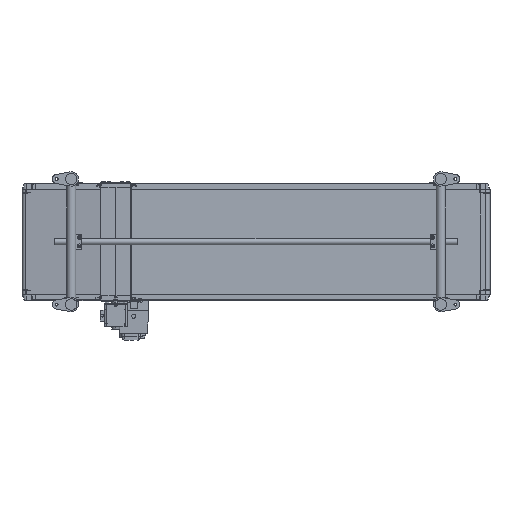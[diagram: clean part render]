
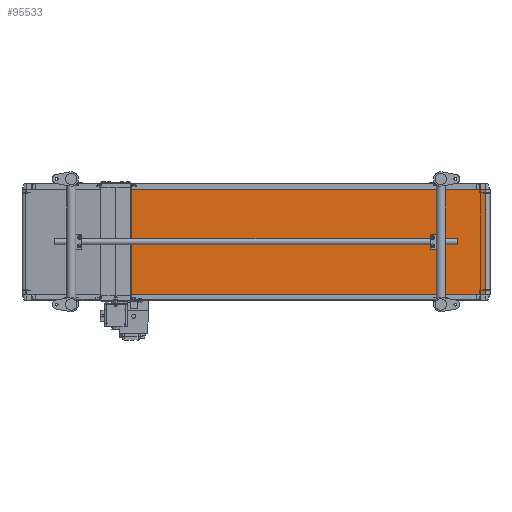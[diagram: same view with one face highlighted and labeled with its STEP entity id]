
A CAD part, front view. The second image highlights one B-rep face of the part: STEP entity #95533.
In plain terms, the highlighted planar face has unit normal (0.023, -1, 0).
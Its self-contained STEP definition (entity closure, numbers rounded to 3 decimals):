
#2728 = CARTESIAN_POINT ( 'NONE',  ( 1982.907, -34.195, -225. ) ) ;
#10260 = CARTESIAN_POINT ( 'NONE',  ( 434.607, -70.005, -225. ) ) ;
#13383 = DIRECTION ( 'NONE',  ( -1., -0.023, 0. ) ) ;
#16677 = VECTOR ( 'NONE', #13383, 1000. ) ;
#23935 = LINE ( 'NONE', #24611, #72868 ) ;
#24611 = CARTESIAN_POINT ( 'NONE',  ( 1982.907, -34.195, -225. ) ) ;
#27562 = VERTEX_POINT ( 'NONE', #51082 ) ;
#28197 = EDGE_CURVE ( 'NONE', #89253, #40652, #50853, .T. ) ;
#28962 = DIRECTION ( 'NONE',  ( 0., 0., 1. ) ) ;
#30366 = LINE ( 'NONE', #44390, #16677 ) ;
#39114 = DIRECTION ( 'NONE',  ( -0.023, 1., 0. ) ) ;
#40063 = DIRECTION ( 'NONE',  ( -1., -0.023, 0. ) ) ;
#40652 = VERTEX_POINT ( 'NONE', #49934 ) ;
#44390 = CARTESIAN_POINT ( 'NONE',  ( 1982.907, -34.195, -225. ) ) ;
#49002 = AXIS2_PLACEMENT_3D ( 'NONE', #54140, #39114, #86273 ) ;
#49934 = CARTESIAN_POINT ( 'NONE',  ( 434.607, -70.005, 225. ) ) ;
#50853 = LINE ( 'NONE', #100860, #78483 ) ;
#51082 = CARTESIAN_POINT ( 'NONE',  ( 1982.907, -34.195, 225. ) ) ;
#54140 = CARTESIAN_POINT ( 'NONE',  ( 1982.907, -34.195, -225. ) ) ;
#55077 = CARTESIAN_POINT ( 'NONE',  ( 1982.907, -34.195, 225. ) ) ;
#55222 = EDGE_LOOP ( 'NONE', ( #88552, #65232, #92680, #72807 ) ) ;
#62041 = EDGE_CURVE ( 'NONE', #66485, #27562, #23935, .T. ) ;
#65232 = ORIENTED_EDGE ( 'NONE', *, *, #28197, .F. ) ;
#66485 = VERTEX_POINT ( 'NONE', #2728 ) ;
#67378 = VECTOR ( 'NONE', #40063, 1000. ) ;
#70928 = EDGE_CURVE ( 'NONE', #66485, #89253, #30366, .T. ) ;
#71809 = FACE_OUTER_BOUND ( 'NONE', #55222, .T. ) ;
#72807 = ORIENTED_EDGE ( 'NONE', *, *, #62041, .T. ) ;
#72868 = VECTOR ( 'NONE', #80574, 1000. ) ;
#78483 = VECTOR ( 'NONE', #28962, 1000. ) ;
#80574 = DIRECTION ( 'NONE',  ( 0., 0., 1. ) ) ;
#83094 = EDGE_CURVE ( 'NONE', #27562, #40652, #86065, .T. ) ;
#86065 = LINE ( 'NONE', #55077, #67378 ) ;
#86273 = DIRECTION ( 'NONE',  ( 1., 0.023, 0. ) ) ;
#88552 = ORIENTED_EDGE ( 'NONE', *, *, #83094, .T. ) ;
#89253 = VERTEX_POINT ( 'NONE', #10260 ) ;
#92680 = ORIENTED_EDGE ( 'NONE', *, *, #70928, .F. ) ;
#94595 = PLANE ( 'NONE',  #49002 ) ;
#95533 = ADVANCED_FACE ( 'NONE', ( #71809 ), #94595, .F. ) ;
#100860 = CARTESIAN_POINT ( 'NONE',  ( 434.607, -70.005, -225. ) ) ;
